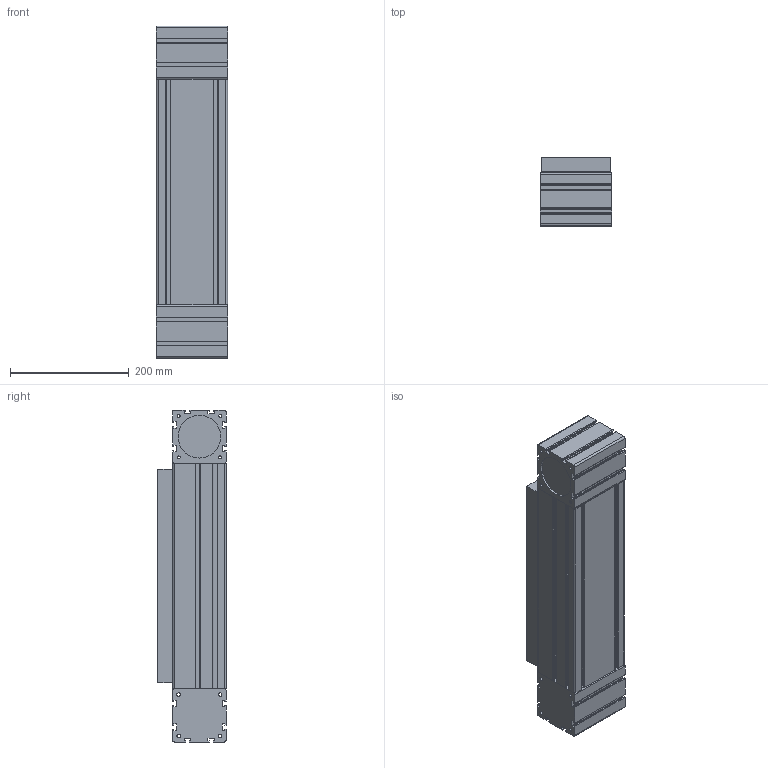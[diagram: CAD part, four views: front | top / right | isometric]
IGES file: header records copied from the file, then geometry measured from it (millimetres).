
Global section: file name: No Iges File Name specified; native system: Autodesk Inventor 2012; preprocessor: AutoDesk Inventor Iges Exporter R2012; author: disegnatore3; date: 20160912.111734; units: millimetre
Bounding box: 120 x 115 x 560 mm (x, y, z)
Volume: 6640913 mm3; surface area: 530121.4 mm2
Topology: 4 solids, 4 shells, 278 faces, 821 edges, 553 vertices
Faces by surface type: plane 182, cylinder 50, revolution 46
